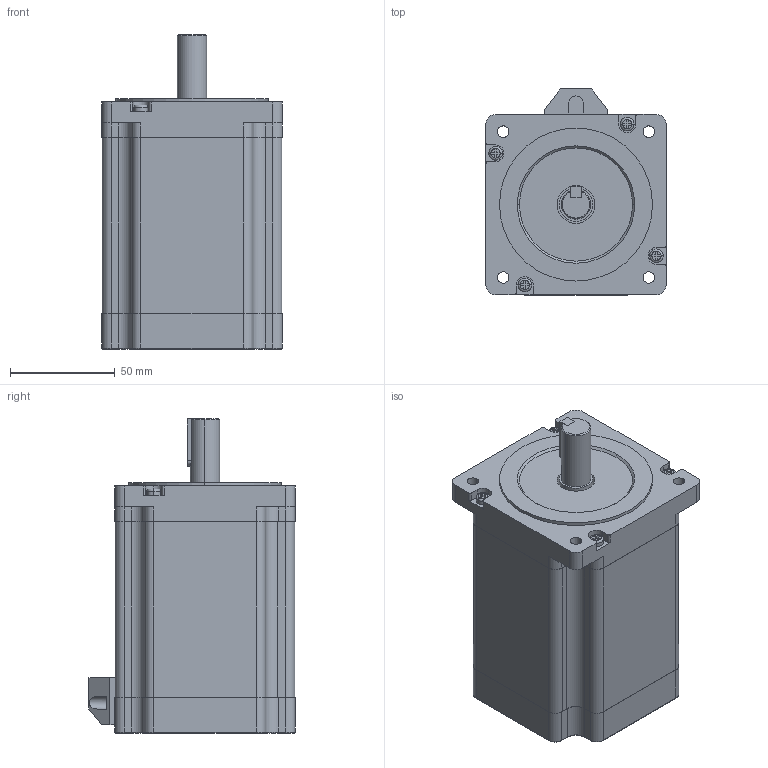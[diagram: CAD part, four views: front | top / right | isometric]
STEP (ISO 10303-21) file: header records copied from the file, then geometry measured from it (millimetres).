
FILE_DESCRIPTION (( 'STEP AP203' ), '1' );
FILE_NAME ('86CM85-0-I14.STEP', '2018-04-18T11:19:12', ( 'Microsoft' ), ( 'China' ), 'SwSTEP 2.0', 'SolidWorks 2011', '' );
FILE_SCHEMA (( 'CONFIG_CONTROL_DESIGN' ));
Length unit declared in the file: millimetre
Products named in the file (1): 86CM85-0-I14
Bounding box: 86 x 98.35 x 150 mm (x, y, z)
Volume: 796850 mm3; surface area: 57829.7 mm2
Topology: 1 solids, 1 shells, 308 faces, 790 edges, 499 vertices
Faces by surface type: plane 145, cylinder 130, torus 28, cone 5
Entity records: 9444 total; most frequent: DIRECTION 1715, CARTESIAN_POINT 1642, ORIENTED_EDGE 1572, EDGE_CURVE 786, AXIS2_PLACEMENT_3D 628, VERTEX_POINT 497, VECTOR 459, LINE 459
